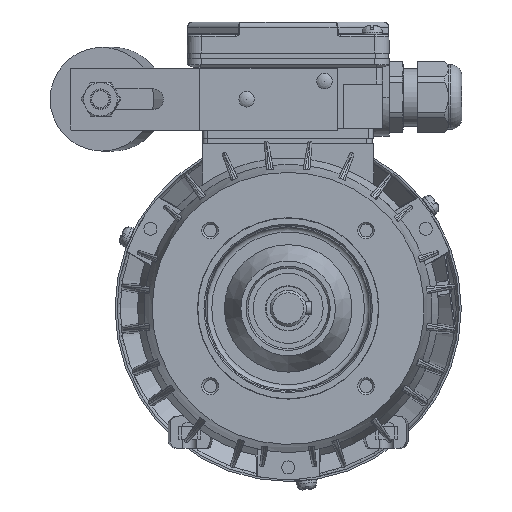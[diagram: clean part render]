
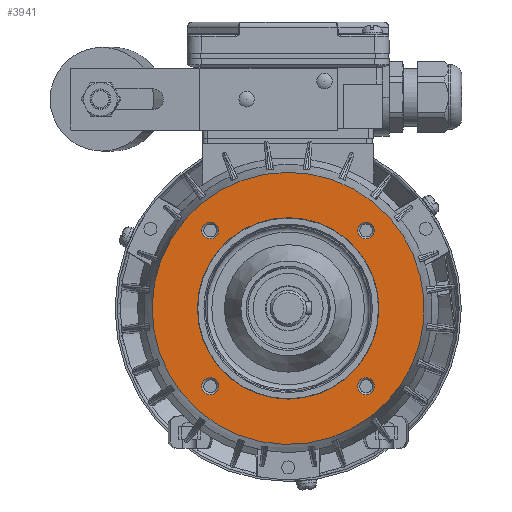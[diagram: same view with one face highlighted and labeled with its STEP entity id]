
A CAD part, front view. The second image highlights one B-rep face of the part: STEP entity #3941.
In plain terms, the highlighted planar face has unit normal (0, -1, 0) as drawn and (-1, 0, 0) by its records, which use the part's own axes.
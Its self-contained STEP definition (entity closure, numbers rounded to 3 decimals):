
#3941 = ADVANCED_FACE( '', ( #9427, #9428, #9429, #9430, #9431, #9432 ), #9433, .F. );
#9427 = FACE_BOUND( '', #22500, .T. );
#9428 = FACE_BOUND( '', #22501, .T. );
#9429 = FACE_BOUND( '', #22502, .T. );
#9430 = FACE_BOUND( '', #22503, .T. );
#9431 = FACE_BOUND( '', #22504, .T. );
#9432 = FACE_OUTER_BOUND( '', #22505, .T. );
#9433 = PLANE( '', #22506 );
#22500 = EDGE_LOOP( '', ( #66566 ) );
#22501 = EDGE_LOOP( '', ( #66567 ) );
#22502 = EDGE_LOOP( '', ( #66568 ) );
#22503 = EDGE_LOOP( '', ( #66569 ) );
#22504 = EDGE_LOOP( '', ( #66570 ) );
#22505 = EDGE_LOOP( '', ( #66571 ) );
#22506 = AXIS2_PLACEMENT_3D( '', #66572, #66573, #66574 );
#66566 = ORIENTED_EDGE( '', *, *, #85369, .T. );
#66567 = ORIENTED_EDGE( '', *, *, #86430, .T. );
#66568 = ORIENTED_EDGE( '', *, *, #86431, .T. );
#66569 = ORIENTED_EDGE( '', *, *, #85366, .T. );
#66570 = ORIENTED_EDGE( '', *, *, #86432, .F. );
#66571 = ORIENTED_EDGE( '', *, *, #86433, .T. );
#66572 = CARTESIAN_POINT( '', ( 2.5, 0., 52.5 ) );
#66573 = DIRECTION( '', ( 1., 0., 0. ) );
#66574 = DIRECTION( '', ( 0., 0., -1. ) );
#85366 = EDGE_CURVE( '', #94849, #94849, #94850, .T. );
#85369 = EDGE_CURVE( '', #94854, #94854, #94855, .T. );
#86430 = EDGE_CURVE( '', #96690, #96690, #96691, .T. );
#86431 = EDGE_CURVE( '', #96692, #96692, #96693, .T. );
#86432 = EDGE_CURVE( '', #96694, #96694, #96695, .T. );
#86433 = EDGE_CURVE( '', #96696, #96696, #96697, .T. );
#94849 = VERTEX_POINT( '', #112651 );
#94850 = CIRCLE( '', #112652, 3.259 );
#94854 = VERTEX_POINT( '', #112656 );
#94855 = CIRCLE( '', #112657, 3.259 );
#96690 = VERTEX_POINT( '', #118672 );
#96691 = CIRCLE( '', #118673, 3.259 );
#96692 = VERTEX_POINT( '', #118674 );
#96693 = CIRCLE( '', #118675, 3.259 );
#96694 = VERTEX_POINT( '', #118676 );
#96695 = CIRCLE( '', #118677, 35. );
#96696 = VERTEX_POINT( '', #118678 );
#96697 = CIRCLE( '', #118679, 52.5 );
#112651 = CARTESIAN_POINT( '', ( 2.5, -33.311, 30.052 ) );
#112652 = AXIS2_PLACEMENT_3D( '', #153412, #153413, #153414 );
#112656 = CARTESIAN_POINT( '', ( 2.5, 26.794, 30.052 ) );
#112657 = AXIS2_PLACEMENT_3D( '', #153418, #153419, #153420 );
#118672 = CARTESIAN_POINT( '', ( 2.5, 26.794, -30.052 ) );
#118673 = AXIS2_PLACEMENT_3D( '', #154707, #154708, #154709 );
#118674 = CARTESIAN_POINT( '', ( 2.5, -33.311, -30.052 ) );
#118675 = AXIS2_PLACEMENT_3D( '', #154710, #154711, #154712 );
#118676 = CARTESIAN_POINT( '', ( 2.5, 0., 35. ) );
#118677 = AXIS2_PLACEMENT_3D( '', #154713, #154714, #154715 );
#118678 = CARTESIAN_POINT( '', ( 2.5, 0., 52.5 ) );
#118679 = AXIS2_PLACEMENT_3D( '', #154716, #154717, #154718 );
#153412 = CARTESIAN_POINT( '', ( 2.5, -30.052, 30.052 ) );
#153413 = DIRECTION( '', ( 1., 0., 0. ) );
#153414 = DIRECTION( '', ( 0., -1., 0. ) );
#153418 = CARTESIAN_POINT( '', ( 2.5, 30.052, 30.052 ) );
#153419 = DIRECTION( '', ( 1., 0., 0. ) );
#153420 = DIRECTION( '', ( 0., -1., 0. ) );
#154707 = CARTESIAN_POINT( '', ( 2.5, 30.052, -30.052 ) );
#154708 = DIRECTION( '', ( 1., 0., 0. ) );
#154709 = DIRECTION( '', ( 0., -1., 0. ) );
#154710 = CARTESIAN_POINT( '', ( 2.5, -30.052, -30.052 ) );
#154711 = DIRECTION( '', ( 1., 0., 0. ) );
#154712 = DIRECTION( '', ( 0., -1., 0. ) );
#154713 = CARTESIAN_POINT( '', ( 2.5, 0., 0. ) );
#154714 = DIRECTION( '', ( -1., 0., 0. ) );
#154715 = DIRECTION( '', ( 0., 0., 1. ) );
#154716 = CARTESIAN_POINT( '', ( 2.5, 0., 0. ) );
#154717 = DIRECTION( '', ( -1., 0., 0. ) );
#154718 = DIRECTION( '', ( 0., 0., 1. ) );
